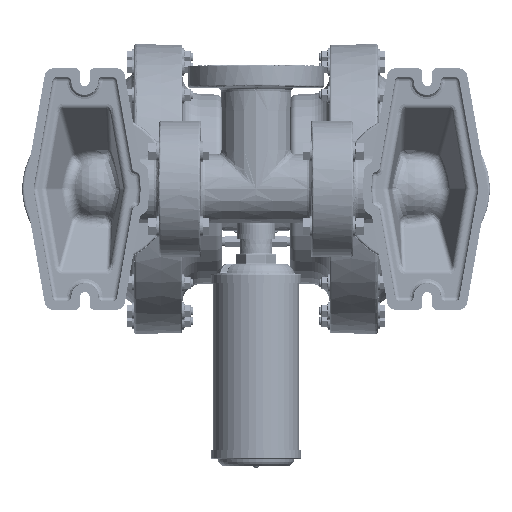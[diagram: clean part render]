
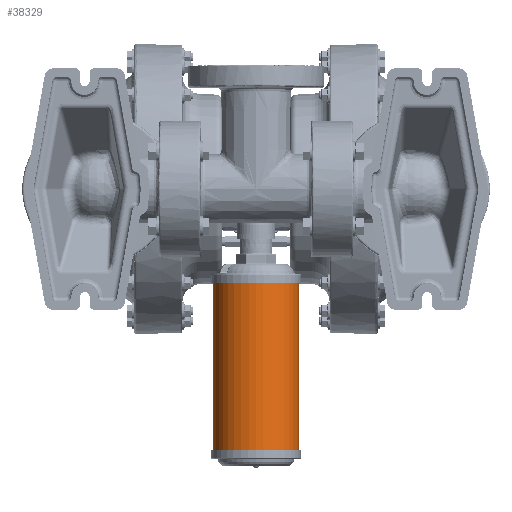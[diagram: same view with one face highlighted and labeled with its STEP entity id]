
A CAD part, front view. The second image highlights one B-rep face of the part: STEP entity #38329.
In plain terms, the highlighted cylindrical face has radius 63.5 mm (diameter 127 mm), a partial arc.
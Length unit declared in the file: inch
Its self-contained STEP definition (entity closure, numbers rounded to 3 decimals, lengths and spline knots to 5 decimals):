
#3855=CYLINDRICAL_SURFACE('',#157866,2.5);
#20392=LINE('',#329202,#30365);
#20395=LINE('',#329223,#30368);
#30365=VECTOR('',#185810,1.);
#30368=VECTOR('',#185817,1.);
#38329=ADVANCED_FACE('',(#51961),#3855,.T.);
#51961=FACE_OUTER_BOUND('',#60956,.T.);
#60956=EDGE_LOOP('',(#94311,#94312,#94313,#94314,#94315,#94316,#94317,#94318));
#94311=ORIENTED_EDGE('',*,*,#138410,.F.);
#94312=ORIENTED_EDGE('',*,*,#138411,.T.);
#94313=ORIENTED_EDGE('',*,*,#138412,.F.);
#94314=ORIENTED_EDGE('',*,*,#138413,.F.);
#94315=ORIENTED_EDGE('',*,*,#138414,.F.);
#94316=ORIENTED_EDGE('',*,*,#138405,.F.);
#94317=ORIENTED_EDGE('',*,*,#138415,.F.);
#94318=ORIENTED_EDGE('',*,*,#138416,.F.);
#119005=VERTEX_POINT('',#329200);
#119007=VERTEX_POINT('',#329203);
#119010=VERTEX_POINT('',#329221);
#119011=VERTEX_POINT('',#329222);
#119012=VERTEX_POINT('',#329224);
#119013=VERTEX_POINT('',#329226);
#119014=VERTEX_POINT('',#329228);
#119015=VERTEX_POINT('',#329231);
#138405=EDGE_CURVE('',#119005,#119007,#20392,.T.);
#138410=EDGE_CURVE('',#119010,#119011,#148239,.T.);
#138411=EDGE_CURVE('',#119010,#119012,#20395,.T.);
#138412=EDGE_CURVE('',#119013,#119012,#148240,.T.);
#138413=EDGE_CURVE('',#119014,#119013,#148241,.T.);
#138414=EDGE_CURVE('',#119007,#119014,#148242,.T.);
#138415=EDGE_CURVE('',#119015,#119005,#148243,.T.);
#138416=EDGE_CURVE('',#119011,#119015,#148244,.T.);
#148239=CIRCLE('',#157860,2.5);
#148240=CIRCLE('',#157861,2.5);
#148241=CIRCLE('',#157862,2.5);
#148242=CIRCLE('',#157863,2.5);
#148243=CIRCLE('',#157864,2.5);
#148244=CIRCLE('',#157865,2.5);
#157860=AXIS2_PLACEMENT_3D('',#329220,#185815,#185816);
#157861=AXIS2_PLACEMENT_3D('',#329225,#185818,#185819);
#157862=AXIS2_PLACEMENT_3D('',#329227,#185820,#185821);
#157863=AXIS2_PLACEMENT_3D('',#329229,#185822,#185823);
#157864=AXIS2_PLACEMENT_3D('',#329230,#185824,#185825);
#157865=AXIS2_PLACEMENT_3D('',#329232,#185826,#185827);
#157866=AXIS2_PLACEMENT_3D('',#329233,#185828,#185829);
#185810=DIRECTION('',(0.,0.,1.));
#185815=DIRECTION('',(0.,0.,-1.));
#185816=DIRECTION('',(1.,0.,0.));
#185817=DIRECTION('',(0.,0.,1.));
#185818=DIRECTION('',(0.,0.,1.));
#185819=DIRECTION('',(-1.,0.,0.));
#185820=DIRECTION('',(0.,0.,1.));
#185821=DIRECTION('',(-1.,0.,0.));
#185822=DIRECTION('',(0.,0.,1.));
#185823=DIRECTION('',(-1.,0.,0.));
#185824=DIRECTION('',(0.,0.,-1.));
#185825=DIRECTION('',(1.,0.,0.));
#185826=DIRECTION('',(0.,0.,-1.));
#185827=DIRECTION('',(1.,0.,0.));
#185828=DIRECTION('',(0.,0.,1.));
#185829=DIRECTION('',(-1.,0.,0.));
#329200=CARTESIAN_POINT('',(0.14488,-6.0142,-15.38834));
#329202=CARTESIAN_POINT('',(0.14488,-6.0142,-15.47228));
#329203=CARTESIAN_POINT('',(0.14488,-6.0142,-5.17325));
#329220=CARTESIAN_POINT('',(0.,-8.51,-15.38834));
#329221=CARTESIAN_POINT('',(0.19171,-6.01736,-15.38834));
#329222=CARTESIAN_POINT('',(2.16506,-7.26,-15.38834));
#329223=CARTESIAN_POINT('',(0.19171,-6.01736,-15.47228));
#329224=CARTESIAN_POINT('',(0.19171,-6.01736,-5.17325));
#329225=CARTESIAN_POINT('',(0.,-8.51,-5.17325));
#329226=CARTESIAN_POINT('',(2.16506,-7.26,-5.17325));
#329227=CARTESIAN_POINT('',(0.,-8.51,-5.17325));
#329228=CARTESIAN_POINT('',(-2.16506,-9.76,-5.17325));
#329229=CARTESIAN_POINT('',(0.,-8.51,-5.17325));
#329230=CARTESIAN_POINT('',(0.,-8.51,-15.38834));
#329231=CARTESIAN_POINT('',(-2.16506,-9.76,-15.38834));
#329232=CARTESIAN_POINT('',(0.,-8.51,-15.38834));
#329233=CARTESIAN_POINT('',(0.,-8.51,-15.47228));
